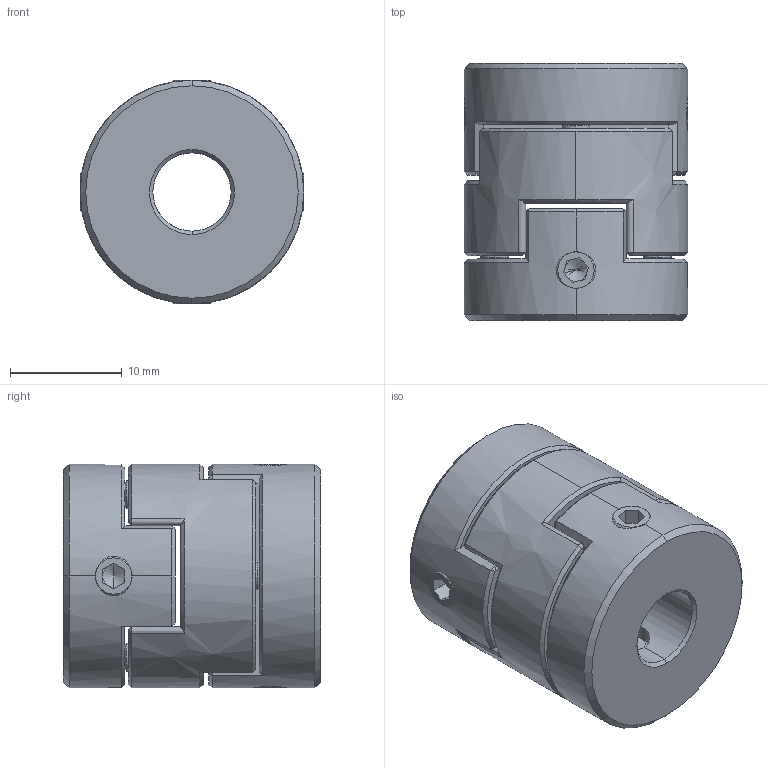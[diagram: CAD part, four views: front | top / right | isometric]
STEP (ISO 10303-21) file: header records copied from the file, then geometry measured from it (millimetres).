
FILE_DESCRIPTION (( 'STEP AP203' ), '1' );
FILE_NAME ('LZ-D-D20L23-7-7.STEP', '2021-10-30T01:46:23', ( '' ), ( '' ), 'SwSTEP 2.0', 'SolidWorks 2018', '' );
FILE_SCHEMA (( 'CONFIG_CONTROL_DESIGN' ));
Length unit declared in the file: millimetre
Products named in the file (1): LZ-D-D20L23-7-7
Bounding box: 20 x 23 x 20 mm (x, y, z)
Volume: 5987.6 mm3; surface area: 4115.8 mm2
Topology: 3 solids, 3 shells, 230 faces, 586 edges, 364 vertices
Faces by surface type: plane 116, cone 54, cylinder 34, bspline 26
Entity records: 9745 total; most frequent: CARTESIAN_POINT 4463, ORIENTED_EDGE 1156, DIRECTION 978, EDGE_CURVE 578, VERTEX_POINT 364, AXIS2_PLACEMENT_3D 357, LINE 264, VECTOR 264
